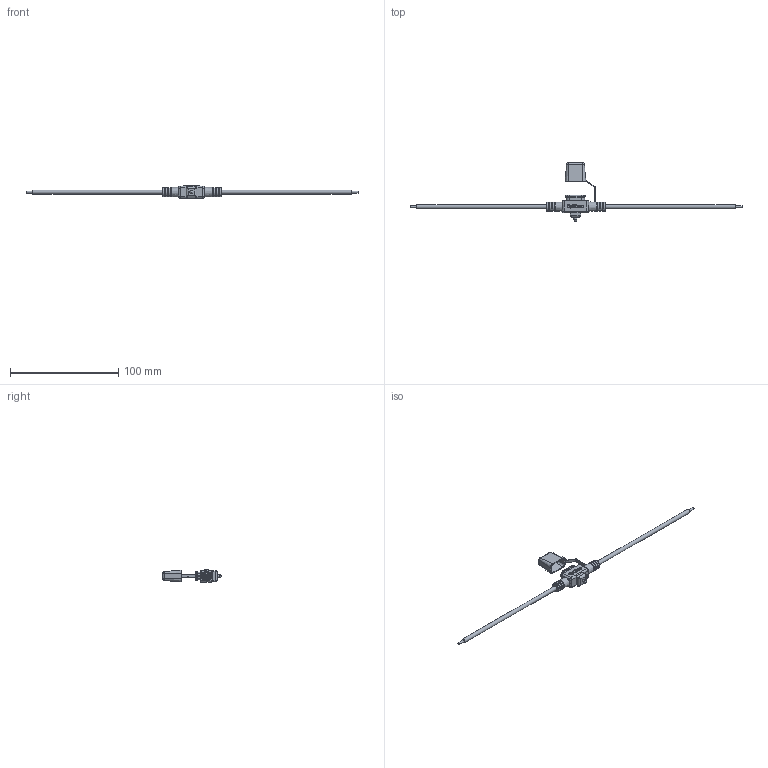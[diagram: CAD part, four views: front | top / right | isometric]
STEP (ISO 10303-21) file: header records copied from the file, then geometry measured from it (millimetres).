
FILE_DESCRIPTION(/* description */ (''),/* implementation_level */ '2;1');
FILE_NAME(/* name */ 'C:\Users\Hani\Desktop\work\LPT-04\LPT-04-I.stp',/* time_stamp */ '2021-07-10T16:02:11-07:00',/* author */ ('Hani'),/* organization */ (''),/* preprocessor_version */ 'ST-DEVELOPER v17',/* originating_system */ 'Autodesk Inventor 2019',/* authorisation */ '');
FILE_SCHEMA (('AUTOMOTIVE_DESIGN { 1 0 10303 214 3 1 1 }'));
Length unit declared in the file: inch
Products named in the file (4): LPT-04-I; holder_fuse-I; terminals_MIR1; terminals_MIR_MIR
Assembly tree (3 placements, depth 2):
  LPT-04-I
    holder_fuse-I
    terminals_MIR1
    terminals_MIR_MIR
Bounding box: 306.58 x 54.03 x 11.43 mm (x, y, z)
Volume: 5775.8 mm3; surface area: 10566 mm2
Topology: 3 solids, 4 shells, 401 faces, 1017 edges, 644 vertices
Faces by surface type: plane 179, bspline 110, cylinder 82, torus 17, cone 13
Full cylindrical faces by diameter (mm): 1.676 x2, 1.905 x2, 2.794 x1, 3.81 x2
Entity records: 13891 total; most frequent: CARTESIAN_POINT 4538, ORIENTED_EDGE 2026, DIRECTION 1691, EDGE_CURVE 1013, VERTEX_POINT 644, AXIS2_PLACEMENT_3D 577, LINE 537, VECTOR 537
